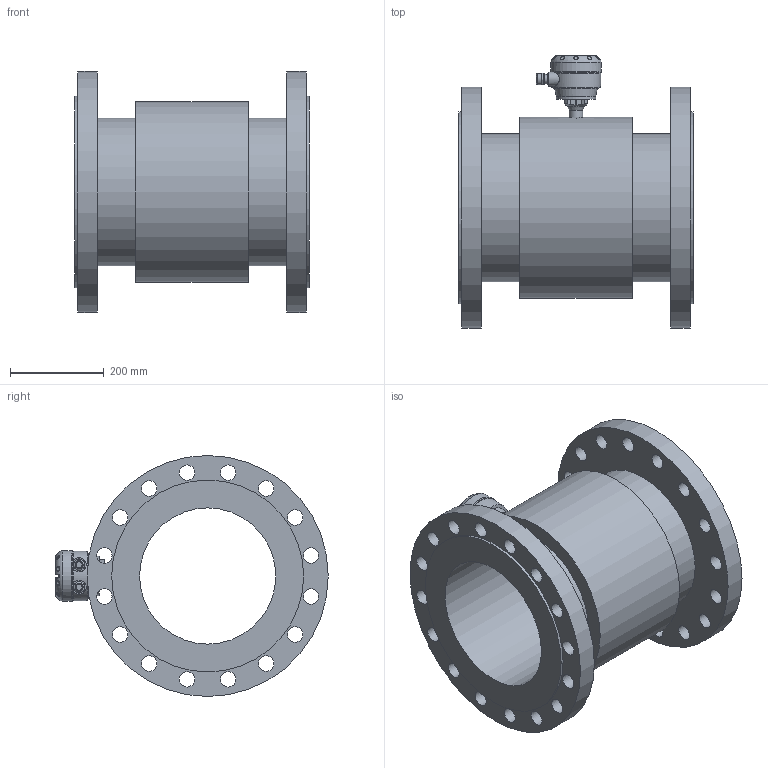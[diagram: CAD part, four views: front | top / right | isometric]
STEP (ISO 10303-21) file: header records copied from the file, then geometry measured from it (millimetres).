
FILE_DESCRIPTION (( 'STEP AP203' ), '1' );
FILE_NAME ('KROHNE_OPTIFLUX_2-4000W_DIN2635_DN300_PN40.STEP', '2011-04-26T11:26:38', ( '' ), ( '' ), 'SwSTEP 2.0', 'SolidWorks 2010', '' );
FILE_SCHEMA (( 'CONFIG_CONTROL_DESIGN' ));
Length unit declared in the file: millimetre
Products named in the file (1): KROHNE_OPTIFLUX_2-4000W_DIN2635_DN300_PN40
Bounding box: 500 x 581.99 x 515 mm (x, y, z)
Volume: 26427822.1 mm3; surface area: 1870619.3 mm2
Topology: 14 solids, 14 shells, 359 faces, 901 edges, 592 vertices
Faces by surface type: plane 158, cylinder 109, bspline 53, torus 18, sphere 13, cone 8
Full cylindrical faces by diameter (mm): 4 x4, 6.6 x8, 13 x2, 20 x2, 23.5 x4, 29 x1, 30 x2, 33 x32, 84 x2, 109 x1, 291 x1, 316 x2, 386 x1, 410 x2, 515 x2
Entity records: 14536 total; most frequent: CARTESIAN_POINT 6579, ORIENTED_EDGE 1526, DIRECTION 1509, EDGE_CURVE 763, AXIS2_PLACEMENT_3D 573, EDGE_LOOP 566, VERTEX_POINT 547, FACE_OUTER_BOUND 442
